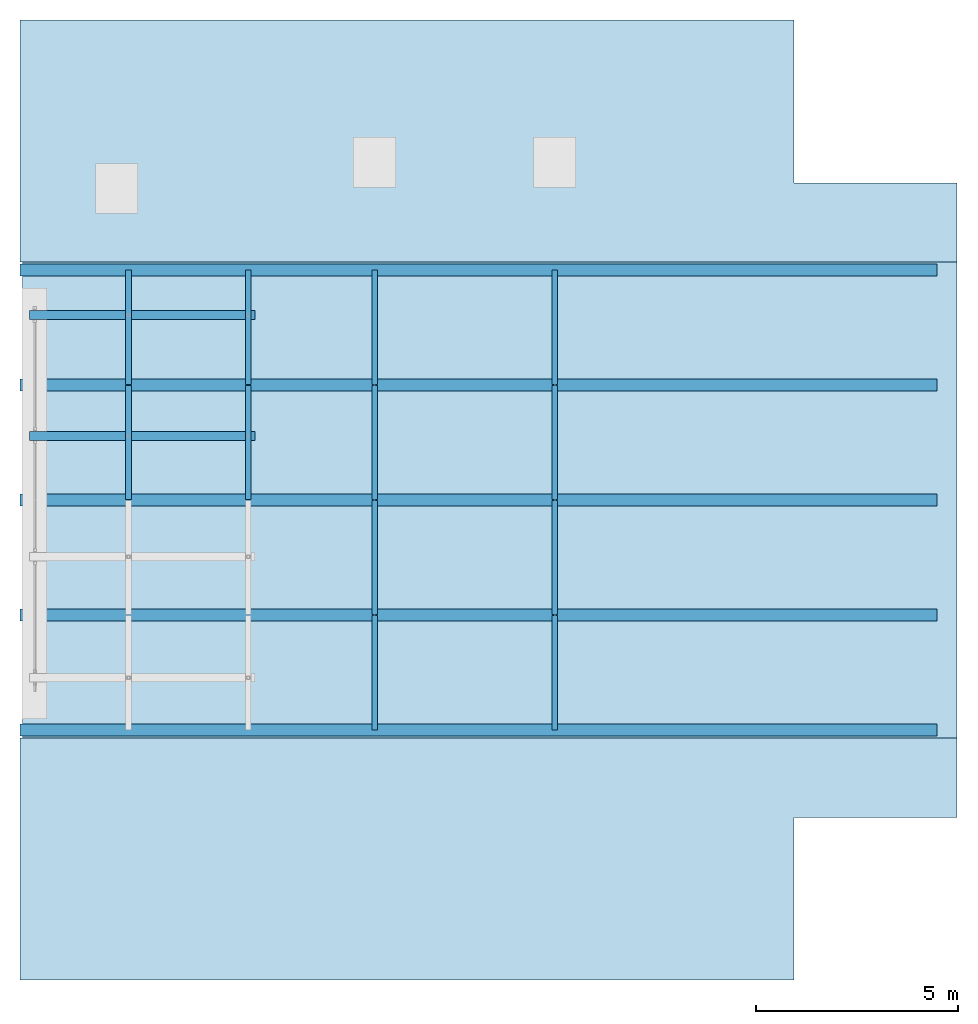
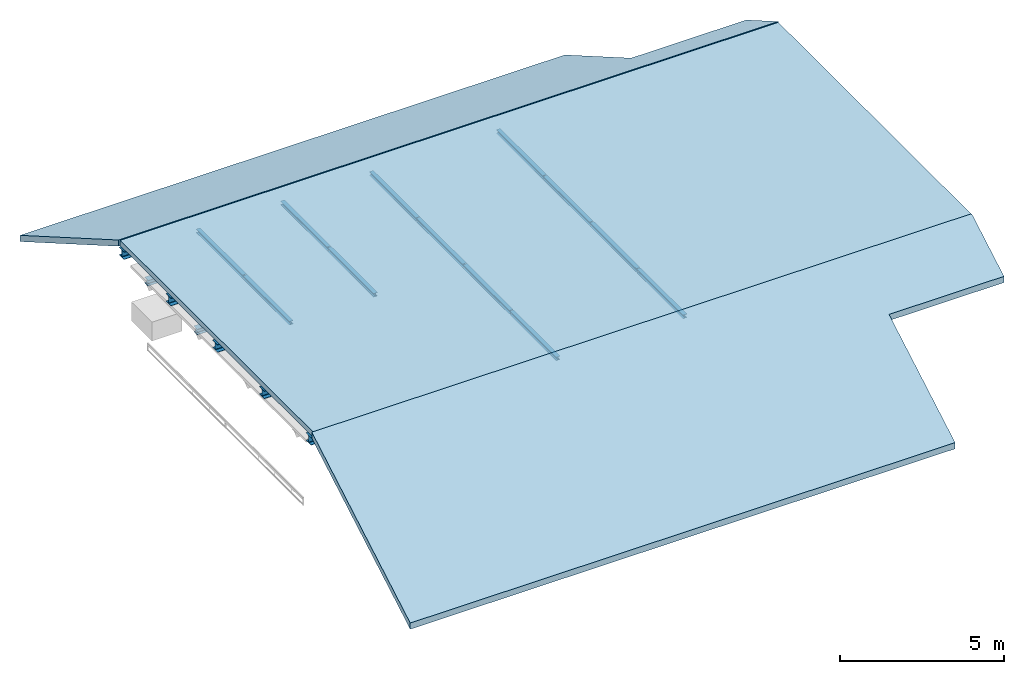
# One storey, part 2 of 3: 19 beams, 3 slabs, 3 elements without a shape of their own.
"""IFC2X3 building model written with IfcOpenShell, lengths in millimetres."""

from ifc_helpers import new_model, entity, si_unit, converted_unit, direction, frame, frame_2d, origin, place, context, subcontext, project, spatial, polyline, rectangle, i_section, outline, extrude, material, layer, layer_set, type_object, element, aggregate, save


model = new_model("IFC2X3")

# Units and contexts
model_context = context("Model", 3, precision=0.01, world=origin(), true_north=direction((6.123233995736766e-17, 1.0)))
body_context = subcontext(model_context, "Body", "Model", "MODEL_VIEW")
ifc_project = project(units=[si_unit("LENGTHUNIT", "METRE", prefix="MILLI"), si_unit("AREAUNIT", "SQUARE_METRE"), converted_unit("PLANEANGLEUNIT", "DEGREE", entity("IfcPlaneAngleMeasure", 0.017453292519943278), si_unit("PLANEANGLEUNIT", "RADIAN"), dimensions=[0, 0, 0, 0, 0, 0, 0])], contexts=[model_context])

# Site, building, storey
site_placement = place(None, origin())
site = spatial("IfcSite", under=ifc_project, at=site_placement, Name="Default", CompositionType="ELEMENT")
building_placement = place(site_placement, origin())
building = spatial("IfcBuilding", under=site, at=building_placement, CompositionType="ELEMENT")
storey_placement = place(building_placement, frame((0.0, 0.0, 22086.36143577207)))
storey = spatial("IfcBuildingStorey", under=building, at=storey_placement, Name="Dak binnendooszaal", CompositionType="ELEMENT", Elevation=22086.36143577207)

# Beams
ifc_material_1 = material(Name="Staal PBTA")
beam_type_1 = type_object("IfcBeamType", Name="H-Balk:HEA140", PredefinedType="BEAM")
beam_1_placement = place(storey_placement, frame((38556.744931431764, 24531.16790690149, -157.0), z_axis=(0.0, 0.0, 1.0), x_axis=(0.0, 1.0, 0.0)))
element("IfcBeam", 1, at=beam_1_placement, inside=storey, type_object=beam_type_1, material=ifc_material_1, Name="H-Balk:HEA140", ObjectType="H-Balk:HEA140", context=body_context, shape_type="SweptSolid", body=[
    extrude(i_section(OverallWidth=139.9999999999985, OverallDepth=133.00000000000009, WebThickness=5.4999999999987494, FlangeThickness=8.5000000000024, FilletRadius=12.000000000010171, at=frame_2d((-2.1600499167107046e-12, 2.1600499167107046e-12), x_axis=(0.0, 1.0))), frame((13.0, 0.0, -66.50000000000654), z_axis=(1.0, 0.0, 0.0), x_axis=(0.0, 0.0, -1.0)), (0.0, 0.0, 1.0), 2823.999999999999),
])
beam_2_placement = place(storey_placement, frame((38556.744931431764, 27381.16790690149, -157.0), z_axis=(0.0, 0.0, 1.0), x_axis=(0.0, 1.0, 0.0)))
element("IfcBeam", 2, at=beam_2_placement, inside=storey, type_object=beam_type_1, material=ifc_material_1, Name="H-Balk:HEA140", ObjectType="H-Balk:HEA140", context=body_context, shape_type="SweptSolid", body=[
    extrude(i_section(OverallWidth=139.9999999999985, OverallDepth=133.00000000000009, WebThickness=5.4999999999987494, FlangeThickness=8.5000000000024, FilletRadius=12.000000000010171, at=frame_2d((-2.1600499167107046e-12, -2.1600499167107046e-12), x_axis=(0.0, 1.0))), frame((13.0, 0.0, -66.50000000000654), z_axis=(1.0, 0.0, 0.0), x_axis=(0.0, 0.0, -1.0)), (0.0, 0.0, 1.0), 2837.0000000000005),
])
beam_3_placement = place(storey_placement, frame((38556.744931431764, 21681.167906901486, -157.0), z_axis=(0.0, 0.0, 1.0), x_axis=(0.0, 1.0, 0.0)))
element("IfcBeam", 3, at=beam_3_placement, inside=storey, type_object=beam_type_1, material=ifc_material_1, Name="H-Balk:HEA140", ObjectType="H-Balk:HEA140", context=body_context, shape_type="SweptSolid", body=[
    extrude(i_section(OverallWidth=139.9999999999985, OverallDepth=133.00000000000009, WebThickness=5.4999999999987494, FlangeThickness=8.5000000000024, FilletRadius=12.000000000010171, at=frame_2d((-2.1600499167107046e-12, 2.1600499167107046e-12), x_axis=(0.0, 1.0))), frame((13.0, 0.0, -66.50000000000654), z_axis=(1.0, 0.0, 0.0), x_axis=(0.0, 0.0, -1.0)), (0.0, 0.0, 1.0), 2823.999999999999),
])
beam_4_placement = place(storey_placement, frame((38556.74493143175, 18831.167906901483, -157.0), z_axis=(0.0, 0.0, 1.0), x_axis=(0.0, 1.0, 0.0)))
element("IfcBeam", 4, at=beam_4_placement, inside=storey, type_object=beam_type_1, material=ifc_material_1, Name="H-Balk:HEA140", ObjectType="H-Balk:HEA140", context=body_context, shape_type="SweptSolid", body=[
    extrude(i_section(OverallWidth=139.9999999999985, OverallDepth=133.00000000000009, WebThickness=5.4999999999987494, FlangeThickness=8.5000000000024, FilletRadius=12.000000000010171, at=frame_2d((-2.1600499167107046e-12, 6.494360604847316e-12), x_axis=(0.0, 1.0))), frame((0.0, 0.0, -66.50000000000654), z_axis=(1.0, 0.0, 0.0), x_axis=(0.0, 0.0, -1.0)), (0.0, 0.0, 1.0), 2837.0000000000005),
])
beam_5_placement = place(storey_placement, frame((34086.74493143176, 24531.1679069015, -157.0), z_axis=(0.0, 0.0, 1.0), x_axis=(0.0, 1.0, 0.0)))
element("IfcBeam", 5, at=beam_5_placement, inside=storey, type_object=beam_type_1, material=ifc_material_1, Name="H-Balk:HEA140", ObjectType="H-Balk:HEA140", context=body_context, shape_type="SweptSolid", body=[
    extrude(i_section(OverallWidth=139.9999999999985, OverallDepth=133.00000000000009, WebThickness=5.4999999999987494, FlangeThickness=8.5000000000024, FilletRadius=12.000000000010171, at=frame_2d((-2.1600499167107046e-12, 6.494360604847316e-12), x_axis=(0.0, 1.0))), frame((13.0, 0.0, -66.50000000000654), z_axis=(1.0, 0.0, 0.0), x_axis=(0.0, 0.0, -1.0)), (0.0, 0.0, 1.0), 2823.999999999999),
])
beam_6_placement = place(storey_placement, frame((34086.744931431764, 27381.167906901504, -157.0), z_axis=(0.0, 0.0, 1.0), x_axis=(0.0, 1.0, 0.0)))
element("IfcBeam", 6, at=beam_6_placement, inside=storey, type_object=beam_type_1, material=ifc_material_1, Name="H-Balk:HEA140", ObjectType="H-Balk:HEA140", context=body_context, shape_type="SweptSolid", body=[
    extrude(i_section(OverallWidth=139.9999999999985, OverallDepth=133.00000000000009, WebThickness=5.4999999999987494, FlangeThickness=8.5000000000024, FilletRadius=12.000000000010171, at=frame_2d((-2.1600499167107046e-12, 2.1600499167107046e-12), x_axis=(0.0, 1.0))), frame((13.0, 0.0, -66.50000000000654), z_axis=(1.0, 0.0, 0.0), x_axis=(0.0, 0.0, -1.0)), (0.0, 0.0, 1.0), 2837.0000000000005),
])
beam_7_placement = place(storey_placement, frame((34086.74493143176, 21681.1679069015, -157.0), z_axis=(0.0, 0.0, 1.0), x_axis=(0.0, 1.0, 0.0)))
element("IfcBeam", 7, at=beam_7_placement, inside=storey, type_object=beam_type_1, material=ifc_material_1, Name="H-Balk:HEA140", ObjectType="H-Balk:HEA140", context=body_context, shape_type="SweptSolid", body=[
    extrude(i_section(OverallWidth=139.9999999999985, OverallDepth=133.00000000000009, WebThickness=5.4999999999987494, FlangeThickness=8.5000000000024, FilletRadius=12.000000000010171, at=frame_2d((-2.1600499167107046e-12, 6.494360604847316e-12), x_axis=(0.0, 1.0))), frame((13.0, 0.0, -66.50000000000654), z_axis=(1.0, 0.0, 0.0), x_axis=(0.0, 0.0, -1.0)), (0.0, 0.0, 1.0), 2823.999999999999),
])
beam_8_placement = place(storey_placement, frame((34086.74493143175, 18831.167906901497, -157.0), z_axis=(0.0, 0.0, 1.0), x_axis=(0.0, 1.0, 0.0)))
element("IfcBeam", 8, at=beam_8_placement, inside=storey, type_object=beam_type_1, material=ifc_material_1, Name="H-Balk:HEA140", ObjectType="H-Balk:HEA140", context=body_context, shape_type="SweptSolid", body=[
    extrude(i_section(OverallWidth=139.9999999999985, OverallDepth=133.00000000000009, WebThickness=5.4999999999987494, FlangeThickness=8.5000000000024, FilletRadius=12.000000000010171, at=frame_2d((-2.1600499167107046e-12, 6.494360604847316e-12), x_axis=(0.0, 1.0))), frame((0.0, 0.0, -66.50000000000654), z_axis=(1.0, 0.0, 0.0), x_axis=(0.0, 0.0, -1.0)), (0.0, 0.0, 1.0), 2837.0000000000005),
])
beam_9_placement = place(storey_placement, frame((30956.29098782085, 24531.16790690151, -157.0), z_axis=(0.0, 0.0, 1.0), x_axis=(0.0, 1.0, 0.0)))
element("IfcBeam", 9, at=beam_9_placement, inside=storey, type_object=beam_type_1, material=ifc_material_1, Name="H-Balk:HEA140", ObjectType="H-Balk:HEA140", context=body_context, shape_type="SweptSolid", body=[
    extrude(i_section(OverallWidth=139.9999999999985, OverallDepth=133.00000000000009, WebThickness=5.4999999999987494, FlangeThickness=8.5000000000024, FilletRadius=12.000000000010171, at=frame_2d((-2.1600499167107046e-12, -2.1600499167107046e-12), x_axis=(0.0, 1.0))), frame((13.0, 0.0, -66.50000000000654), z_axis=(1.0, 0.0, 0.0), x_axis=(0.0, 0.0, -1.0)), (0.0, 0.0, 1.0), 2823.999999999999),
])
beam_10_placement = place(storey_placement, frame((30956.290987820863, 27381.16790690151, -157.0), z_axis=(0.0, 0.0, 1.0), x_axis=(0.0, 1.0, 0.0)))
element("IfcBeam", 10, at=beam_10_placement, inside=storey, type_object=beam_type_1, material=ifc_material_1, Name="H-Balk:HEA140", ObjectType="H-Balk:HEA140", context=body_context, shape_type="SweptSolid", body=[
    extrude(i_section(OverallWidth=139.9999999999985, OverallDepth=133.00000000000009, WebThickness=5.4999999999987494, FlangeThickness=8.5000000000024, FilletRadius=12.000000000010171, at=frame_2d((-2.1600499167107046e-12, 2.1600499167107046e-12), x_axis=(0.0, 1.0))), frame((13.0, 0.0, -66.50000000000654), z_axis=(1.0, 0.0, 0.0), x_axis=(0.0, 0.0, -1.0)), (0.0, 0.0, 1.0), 2837.0000000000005),
])
beam_11_placement = place(storey_placement, frame((27983.241295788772, 24531.16790690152, -157.0), z_axis=(0.0, 0.0, 1.0), x_axis=(0.0, 1.0, 0.0)))
element("IfcBeam", 11, at=beam_11_placement, inside=storey, type_object=beam_type_1, material=ifc_material_1, Name="H-Balk:HEA140", ObjectType="H-Balk:HEA140", context=body_context, shape_type="SweptSolid", body=[
    extrude(i_section(OverallWidth=139.9999999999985, OverallDepth=133.00000000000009, WebThickness=5.4999999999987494, FlangeThickness=8.5000000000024, FilletRadius=12.000000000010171, at=frame_2d((-2.1600499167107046e-12, 2.1600499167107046e-12), x_axis=(0.0, 1.0))), frame((13.0, 0.0, -66.50000000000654), z_axis=(1.0, 0.0, 0.0), x_axis=(0.0, 0.0, -1.0)), (0.0, 0.0, 1.0), 2823.999999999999),
])
beam_12_placement = place(storey_placement, frame((27983.241295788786, 27381.167906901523, -157.0), z_axis=(0.0, 0.0, 1.0), x_axis=(0.0, 1.0, 0.0)))
element("IfcBeam", 12, at=beam_12_placement, inside=storey, type_object=beam_type_1, material=ifc_material_1, Name="H-Balk:HEA140", ObjectType="H-Balk:HEA140", context=body_context, shape_type="SweptSolid", body=[
    extrude(i_section(OverallWidth=139.9999999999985, OverallDepth=133.00000000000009, WebThickness=5.4999999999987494, FlangeThickness=8.5000000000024, FilletRadius=12.000000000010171, at=frame_2d((-2.1600499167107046e-12, 2.1600499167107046e-12), x_axis=(0.0, 1.0))), frame((13.0, 0.0, -66.50000000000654), z_axis=(1.0, 0.0, 0.0), x_axis=(0.0, 0.0, -1.0)), (0.0, 0.0, 1.0), 2837.0000000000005),
])
beam_type_2 = type_object("IfcBeamType", Name="H-Balk:HEA300", PredefinedType="BEAM")
beam_13_placement = place(storey_placement, frame((48036.74493143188, 24531.167906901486, 0.0), z_axis=(0.0, 0.0, 1.0), x_axis=(-1.0, 0.0, 0.0)))
element("IfcBeam", 13, at=beam_13_placement, inside=storey, type_object=beam_type_2, material=ifc_material_1, Name="H-Balk:HEA300", ObjectType="H-Balk:HEA300", context=body_context, shape_type="SweptSolid", body=[
    extrude(i_section(OverallWidth=300.0000000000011, OverallDepth=289.99999999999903, WebThickness=8.500000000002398, FlangeThickness=14.00000000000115, FilletRadius=26.99999999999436, at=frame_2d((2.1600499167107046e-12, 4.334310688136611e-12), x_axis=(0.0, 1.0))), frame((0.0, 0.0, -145.0), z_axis=(1.0, 0.0, 0.0), x_axis=(0.0, 0.0, -1.0)), (0.0, 0.0, 1.0), 22745.000000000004),
])
beam_14_placement = place(storey_placement, frame((48036.74493143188, 27381.167906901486, 0.0), z_axis=(0.0, 0.0, 1.0), x_axis=(-1.0, 0.0, 0.0)))
element("IfcBeam", 14, at=beam_14_placement, inside=storey, type_object=beam_type_2, material=ifc_material_1, Name="H-Balk:HEA300", ObjectType="H-Balk:HEA300", context=body_context, shape_type="SweptSolid", body=[
    extrude(i_section(OverallWidth=300.0000000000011, OverallDepth=289.99999999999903, WebThickness=8.500000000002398, FlangeThickness=14.00000000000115, FilletRadius=26.99999999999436, at=frame_2d((2.1600499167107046e-12, 0.0), x_axis=(0.0, 1.0))), frame((0.0, 0.0, -145.0), z_axis=(1.0, 0.0, 0.0), x_axis=(0.0, 0.0, -1.0)), (0.0, 0.0, 1.0), 22745.000000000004),
])
beam_15_placement = place(storey_placement, frame((48036.74493143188, 30231.16790690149, 0.0), z_axis=(0.0, 0.0, 1.0), x_axis=(-1.0, 0.0, 0.0)))
element("IfcBeam", 15, at=beam_15_placement, inside=storey, type_object=beam_type_2, material=ifc_material_1, Name="H-Balk:HEA300", ObjectType="H-Balk:HEA300", context=body_context, shape_type="SweptSolid", body=[
    extrude(i_section(OverallWidth=300.0000000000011, OverallDepth=289.99999999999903, WebThickness=8.500000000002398, FlangeThickness=14.00000000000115, FilletRadius=26.99999999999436, at=frame_2d((2.1600499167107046e-12, 4.334310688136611e-12), x_axis=(0.0, 1.0))), frame((0.0, 0.0, -145.0), z_axis=(1.0, 0.0, 0.0), x_axis=(0.0, 0.0, -1.0)), (0.0, 0.0, 1.0), 22745.000000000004),
])
beam_16_placement = place(storey_placement, frame((48036.74493143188, 21681.167906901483, 0.0), z_axis=(0.0, 0.0, 1.0), x_axis=(-1.0, 0.0, 0.0)))
element("IfcBeam", 16, at=beam_16_placement, inside=storey, type_object=beam_type_2, material=ifc_material_1, Name="H-Balk:HEA300", ObjectType="H-Balk:HEA300", context=body_context, shape_type="SweptSolid", body=[
    extrude(i_section(OverallWidth=300.0000000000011, OverallDepth=289.99999999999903, WebThickness=8.500000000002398, FlangeThickness=14.00000000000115, FilletRadius=26.99999999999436, at=frame_2d((2.1600499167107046e-12, 0.0), x_axis=(0.0, 1.0))), frame((0.0, 0.0, -145.0), z_axis=(1.0, 0.0, 0.0), x_axis=(0.0, 0.0, -1.0)), (0.0, 0.0, 1.0), 22745.000000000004),
])
beam_17_placement = place(storey_placement, frame((48036.74493143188, 18831.167906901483, 0.0), z_axis=(0.0, 0.0, 1.0), x_axis=(-1.0, 0.0, 0.0)))
element("IfcBeam", 17, at=beam_17_placement, inside=storey, type_object=beam_type_2, material=ifc_material_1, Name="H-Balk:HEA300", ObjectType="H-Balk:HEA300", context=body_context, shape_type="SweptSolid", body=[
    extrude(i_section(OverallWidth=300.0000000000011, OverallDepth=289.99999999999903, WebThickness=8.500000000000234, FlangeThickness=14.00000000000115, FilletRadius=26.999999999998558, at=frame_2d((2.1600499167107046e-12, -1.0800249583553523e-12), x_axis=(0.0, 1.0))), frame((0.0, 0.0, -145.0), z_axis=(1.0, 0.0, 0.0), x_axis=(0.0, 0.0, -1.0)), (0.0, 0.0, 1.0), 22745.000000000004),
])
beam_type_3 = type_object("IfcBeamType", Name="H-Balk:HEA220", PredefinedType="BEAM")
beam_18_placement = place(storey_placement, frame((25521.59288658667, 29122.298876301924, -500.0)))
element("IfcBeam", 18, at=beam_18_placement, inside=storey, type_object=beam_type_3, material=ifc_material_1, Name="H-Balk:HEA220", ObjectType="H-Balk:HEA220", context=body_context, shape_type="SweptSolid", body=[
    extrude(i_section(OverallWidth=220.00000000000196, OverallDepth=209.99999999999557, WebThickness=7.00000000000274, FlangeThickness=10.999999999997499, FilletRadius=18.000000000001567, at=frame_2d((0.0, -2.1671553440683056e-12), x_axis=(0.0, 1.0))), frame((0.0, 0.0, -105.0), z_axis=(1.0, 0.0, 0.0), x_axis=(0.0, 0.0, -1.0)), (0.0, 0.0, 1.0), 5600.000000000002),
])
beam_19_placement = place(storey_placement, frame((25521.592886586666, 26122.298876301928, -500.0)))
element("IfcBeam", 19, at=beam_19_placement, inside=storey, type_object=beam_type_3, material=ifc_material_1, Name="H-Balk:HEA220", ObjectType="H-Balk:HEA220", context=body_context, shape_type="SweptSolid", body=[
    extrude(i_section(OverallWidth=220.00000000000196, OverallDepth=209.99999999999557, WebThickness=7.00000000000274, FlangeThickness=10.999999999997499, FilletRadius=18.000000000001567, at=frame_2d((0.0, -6.501466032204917e-12), x_axis=(0.0, 1.0))), frame((0.0, 0.0, -105.0), z_axis=(1.0, 0.0, 0.0), x_axis=(0.0, 0.0, -1.0)), (0.0, 0.0, 1.0), 5600.000000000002),
])

# Roof, slab
ifc_material_2 = material(Name="NL_27_dak")
ifc_layer = layer(ifc_material_2, 200.0)
ifc_layer_set = layer_set([ifc_layer], Name="Basic Roof:NL_27_basis_200")
roof_1_placement = place(storey_placement, frame((25351.939409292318, 18631.167906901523, 0.0)))
roof_1 = element("IfcRoof", 20, at=roof_1_placement, inside=storey, material=ifc_layer_set, Name="Basic Roof:NL_27_basis_200", ObjectType="Basic Roof:NL_27_basis_200", ShapeType="NOTDEFINED")
type_product = type_object("IfcTypeProduct", Name="Basic Roof:NL_27_basis_200")
slab_1_placement = place(roof_1_placement, origin())
slab_1 = element("IfcSlab", 21, at=slab_1_placement, type_object=type_product, material=ifc_layer_set, Name="Basic Roof:NL_27_basis_200", ObjectType="Basic Roof:NL_27_basis_200", PredefinedType="ROOF", context=body_context, shape_type="SweptSolid", body=[
    extrude(rectangle(XDim=11799.99999999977, YDim=23184.805522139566, at=frame_2d((-7.275957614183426e-12, -3.9108272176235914e-11), x_axis=(0.0, -1.0))), frame((11592.40276106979, 5900.0, 0.0)), (0.0, 0.0, 1.0), 199.99999999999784),
])
aggregate(roof_1, [slab_1])

roof_2_placement = place(storey_placement, frame((25291.744931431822, 30431.16790690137, -3467.2770416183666)))
roof_2 = element("IfcRoof", 22, at=roof_2_placement, inside=storey, material=ifc_layer_set, Name="Basic Roof:NL_27_basis_200", ObjectType="Basic Roof:NL_27_basis_200", ShapeType="NOTDEFINED")
slab_2_placement = place(roof_2_placement, origin())
slab_2 = element("IfcSlab", 23, at=slab_2_placement, type_object=type_product, material=ifc_layer_set, Name="Basic Roof:NL_27_basis_200", ObjectType="Basic Roof:NL_27_basis_200", PredefinedType="ROOF", context=body_context, shape_type="SweptSolid", body=[
    extrude(outline(polyline([(11622.500000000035, -3467.2770416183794), (11622.500000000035, -1207.5280880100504), (7570.694477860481, -1207.5280880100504), (7570.694477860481, 3467.2770416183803), (-11622.500000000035, 3467.2770416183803), (-11622.500000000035, -3467.27704161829), (11622.500000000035, -3467.2770416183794)])), frame((11622.500000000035, 3002.750000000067, 1733.6385208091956), z_axis=(0.0, 0.5000000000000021, 0.8660254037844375), x_axis=(1.0, 0.0, 0.0)), (0.0, -0.5000000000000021, 0.8660254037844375), 230.94010767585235),
])
aggregate(roof_2, [slab_2])

roof_3_placement = place(storey_placement, frame((25291.744931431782, 12625.667906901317, -3467.277041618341)))
roof_3 = element("IfcRoof", 24, at=roof_3_placement, inside=storey, material=ifc_layer_set, Name="Basic Roof:NL_27_basis_200", ObjectType="Basic Roof:NL_27_basis_200", ShapeType="NOTDEFINED")
slab_3_placement = place(roof_3_placement, origin())
slab_3 = element("IfcSlab", 25, at=slab_3_placement, type_object=type_product, material=ifc_layer_set, Name="Basic Roof:NL_27_basis_200", ObjectType="Basic Roof:NL_27_basis_200", PredefinedType="ROOF", context=body_context, shape_type="SweptSolid", body=[
    extrude(outline(polyline([(-11622.500000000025, 3467.277041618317), (-11622.500000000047, -3467.2770416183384), (7573.194477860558, -3467.2770416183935), (7573.194477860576, 1189.3135910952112), (11622.500000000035, 1189.313591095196), (11622.500000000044, 3467.2770416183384), (-11622.500000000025, 3467.277041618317)])), frame((11622.500000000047, 3002.7500000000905, 1733.6385208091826), z_axis=(0.0, -0.499999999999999, 0.8660254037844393), x_axis=(1.0, 0.0, 0.0)), (0.0, 0.499999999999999, 0.8660254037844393), 230.94010767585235),
])
aggregate(roof_3, [slab_3])

save(model, "model.ifc")
